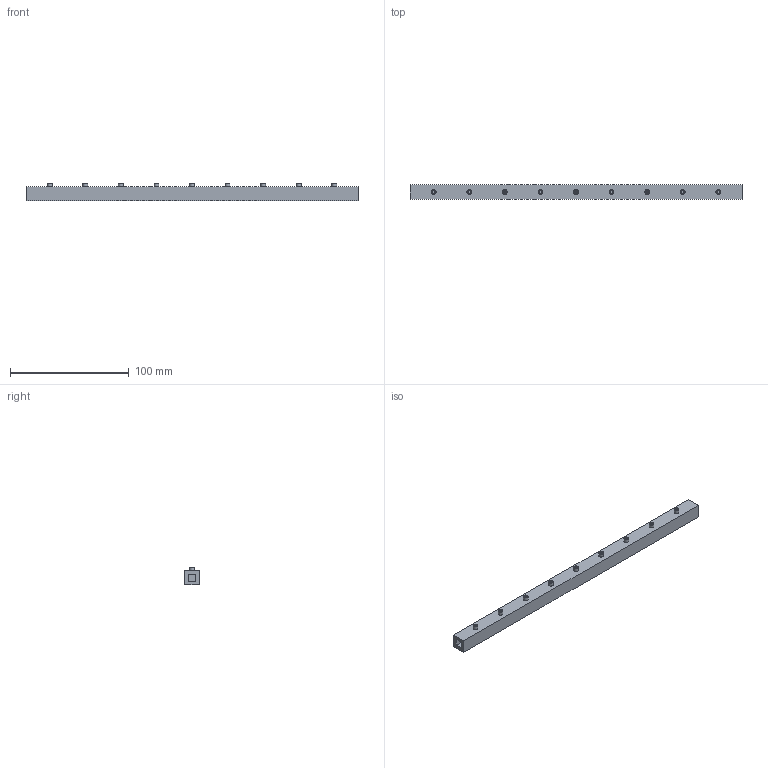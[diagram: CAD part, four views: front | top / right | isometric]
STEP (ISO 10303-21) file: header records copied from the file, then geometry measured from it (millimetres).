
FILE_DESCRIPTION(('Open CASCADE Model'),'2;1');
FILE_NAME('Open CASCADE Shape Model','2026-10-16T19:20:08',('Author'),( 'Open CASCADE'),'Open CASCADE STEP processor 7.8','Open CASCADE 7.8' ,'Unknown');
FILE_SCHEMA(('AUTOMOTIVE_DESIGN { 1 0 10303 214 1 1 1 1 }'));
Length unit declared in the file: millimetre
Products named in the file (1): Open CASCADE STEP translator 7.8 25
Bounding box: 280 x 12 x 15 mm (x, y, z)
Volume: 30517.6 mm3; surface area: 20998 mm2
Topology: 1 solids, 1 shells, 38 faces, 78 edges, 52 vertices
Faces by surface type: plane 20, cylinder 18
Full cylindrical faces by diameter (mm): 2 x9, 4 x9
Entity records: 2124 total; most frequent: CARTESIAN_POINT 441, DIRECTION 322, ORIENTED_EDGE 156, PCURVE 156, DEFINITIONAL_REPRESENTATION 156, LINE 154, VECTOR 154, EDGE_CURVE 78
